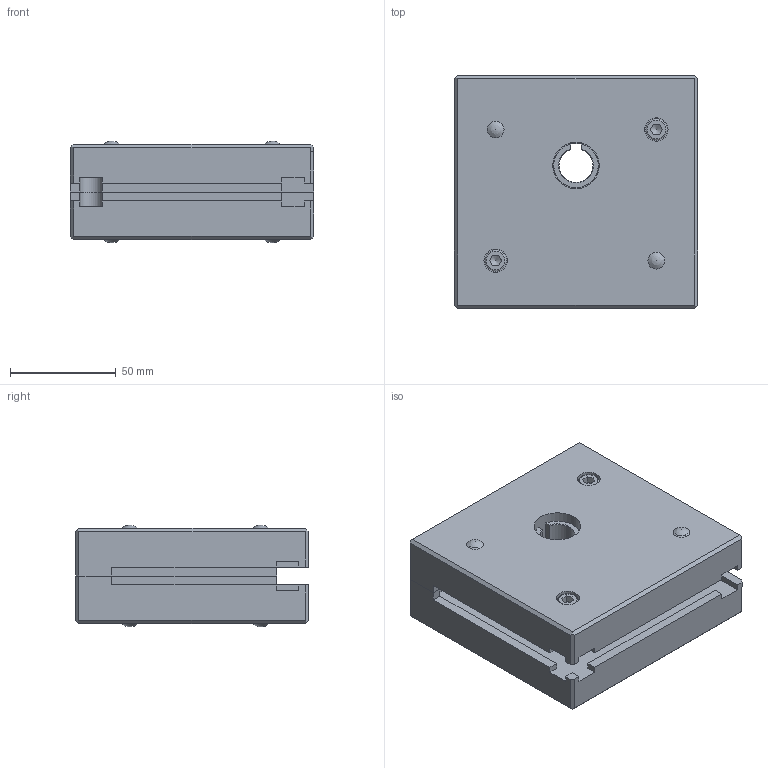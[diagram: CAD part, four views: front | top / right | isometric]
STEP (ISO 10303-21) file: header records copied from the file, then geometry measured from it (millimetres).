
FILE_DESCRIPTION(/* description */ ('TIMING BELT PULLEY T45 16mm'),/* implementation_level */ '2;1');
FILE_NAME(/* name */ 'Z:\WEBSITE\DREAMWEAVER\MiniTec\Products\Linear System LR\CAD\Step\28.0614_4 TIMING BELT PULLEY T45 16mm.stp',/* time_stamp */ '2018-05-10T10:34:10-04:00',/* author */ ('amoles'),/* organization */ (''),/* preprocessor_version */ 'ST-DEVELOPER v17',/* originating_system */ 'Autodesk Inventor 2018',/* authorisation */ '');
FILE_SCHEMA (('AUTOMOTIVE_DESIGN { 1 0 10303 214 3 1 1 }'));
Length unit declared in the file: millimetre
Products named in the file (9): 28.0614/4 ; 28.0614 TIMING BELT PULLEY T45 RIGHT PLATE; 28.0047/3 ; leer; 28.0083 BEARING; leer_1; 28.0614 TIMING BELT PULLEY T45 LEFT PLATE; leer_2; 22.1203
Assembly tree (17 placements, depth 2):
  28.0614/4 
    28.0614 TIMING BELT PULLEY T45 RIGHT PLATE
    28.0047/3 
    leer  x2
    28.0083 BEARING  x2
    leer_1  x2
    28.0614 TIMING BELT PULLEY T45 LEFT PLATE
    leer_2  x4
    22.1203  x4
Bounding box: 115 x 110 x 48 mm (x, y, z)
Volume: 405650.5 mm3; surface area: 132087.7 mm2
Topology: 17 solids, 17 shells, 345 faces, 906 edges, 623 vertices
Faces by surface type: plane 214, cylinder 109, cone 10, torus 8, bspline 4
Full cylindrical faces by diameter (mm): 4 x4, 5.75 x4, 6 x8, 6.5 x4, 10 x4, 11 x4, 22 x2, 25 x6, 30 x6, 35 x2, 37 x2, 43 x4, 47 x6, 66.04 x2
Entity records: 8821 total; most frequent: CARTESIAN_POINT 1528, DIRECTION 1487, ORIENTED_EDGE 1418, EDGE_CURVE 709, AXIS2_PLACEMENT_3D 502, LINE 483, VECTOR 483, VERTEX_POINT 483
